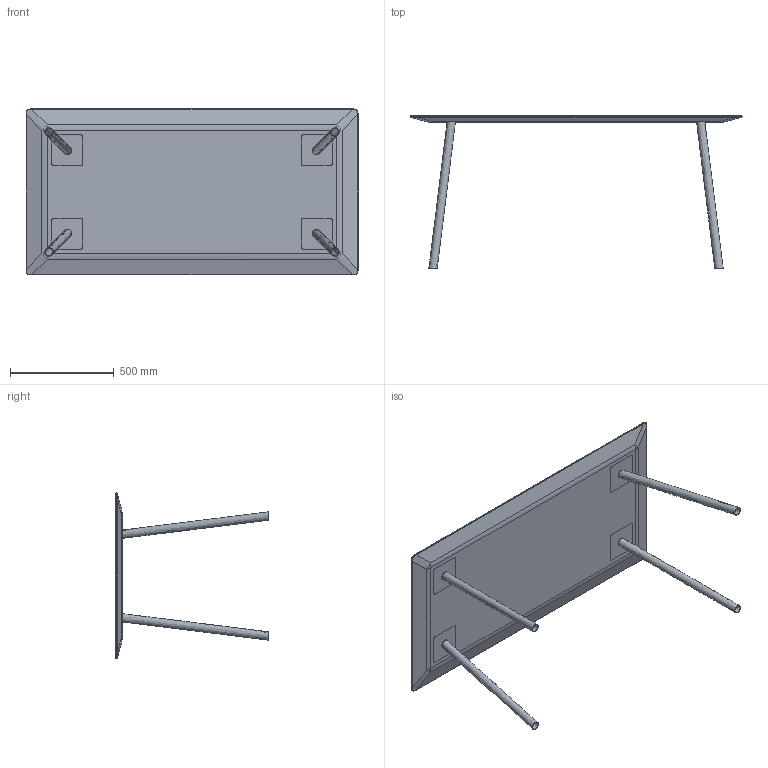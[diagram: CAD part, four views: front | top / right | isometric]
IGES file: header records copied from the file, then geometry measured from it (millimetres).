
Start section: SolidWorks IGES file using NURBS representation for surfaces
Global section: file name: W:\01-VICCARBE\PRODUCTOS\48-MAARTEN MESA\04-MODELADOS (PLANOS)\2-WEB\Piezas\IGS\VICCARBE_Maarten_160x80.IGS; native system: SolidWorks 2013; preprocessor: SolidWorks 2013; author: Usuario; date: 140904.103405; units: millimetre
Bounding box: 1600 x 734 x 800 mm (x, y, z)
Surface area: 3486833 mm2 (no closed solid volume)
Topology: 0 solids, 0 shells, 110 faces, 512 edges, 496 vertices
Faces by surface type: bspline 110
